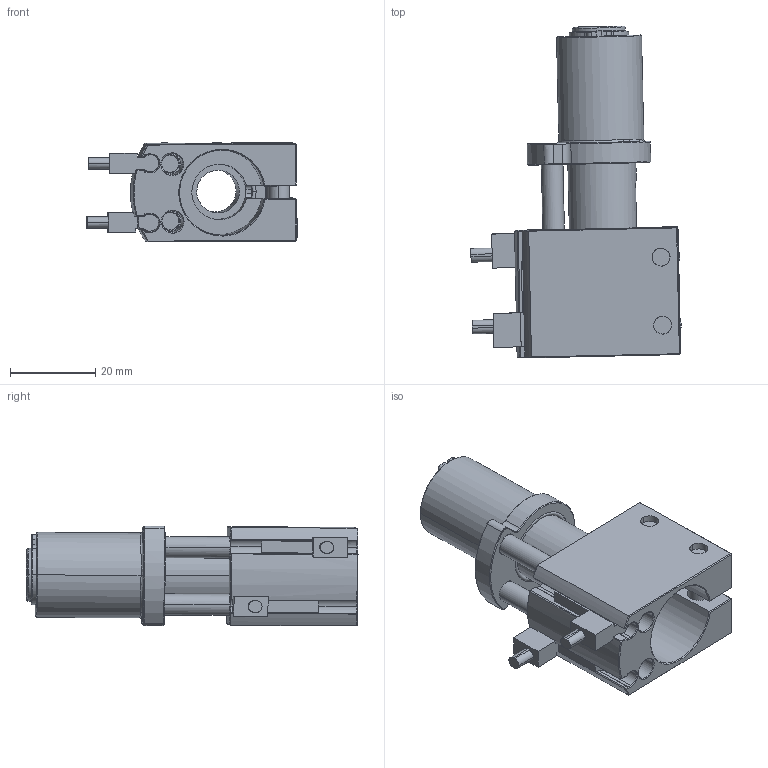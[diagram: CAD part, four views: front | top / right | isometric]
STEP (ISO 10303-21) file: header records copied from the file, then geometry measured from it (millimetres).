
FILE_DESCRIPTION (( 'STEP AP203' ), '1' );
FILE_NAME ('GSP20-20C缓冲支架.STEP', '2023-12-27T09:01:54', ( '微软用户' ), ( '微软中国' ), 'SwSTEP 2.0', 'SolidWorks 2018', '' );
FILE_SCHEMA (( 'CONFIG_CONTROL_DESIGN' ));
Length unit declared in the file: millimetre
Products named in the file (1): GSP20-20C遣喳盓殤
Bounding box: 49.48 x 78.09 x 23.52 mm (x, y, z)
Volume: 22965.2 mm3; surface area: 18432.5 mm2
Topology: 7 solids, 7 shells, 482 faces, 1261 edges, 787 vertices
Faces by surface type: plane 248, cylinder 125, cone 89, torus 14, bspline 6
Entity records: 17295 total; most frequent: CARTESIAN_POINT 6442, ORIENTED_EDGE 2498, DIRECTION 1835, EDGE_CURVE 1249, VERTEX_POINT 787, AXIS2_PLACEMENT_3D 697, B_SPLINE_CURVE_WITH_KNOTS 588, EDGE_LOOP 520
